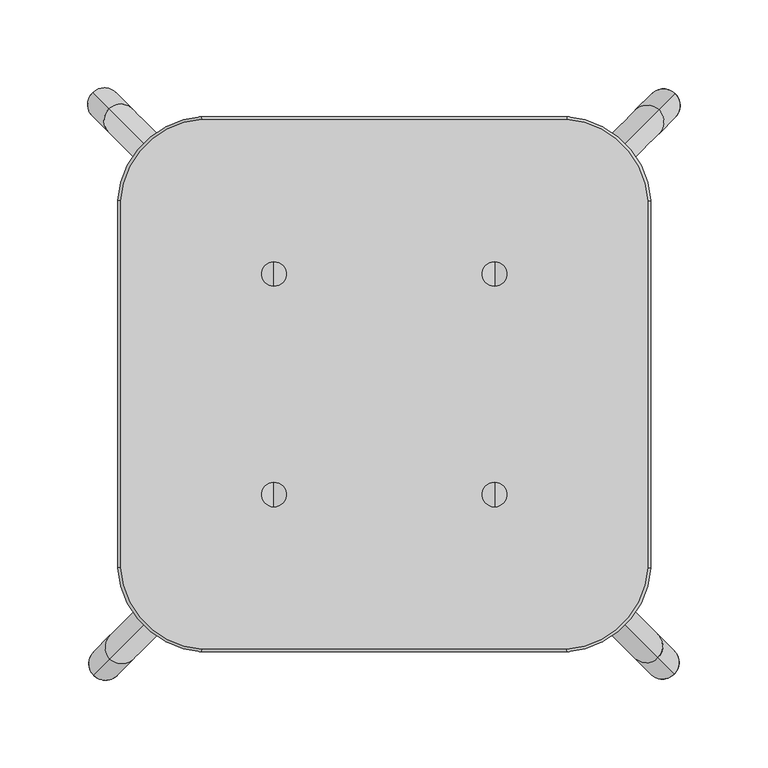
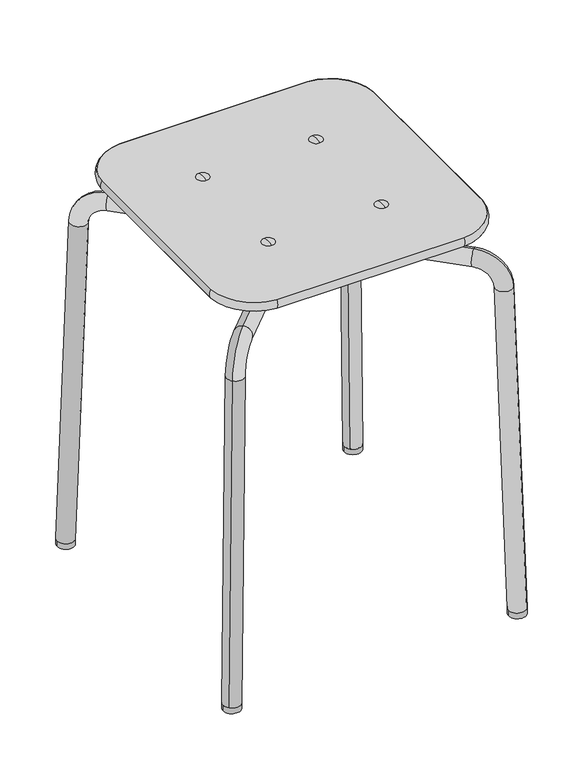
"""IFC4 building model written with IfcOpenShell, lengths in millimetres: furniture geometry, Grip NxT Stool 45 Stack : 45 Unupholstered."""

import ifcopenshell
import ifcopenshell.guid

model = None  # the IFC model being written
_history = None  # IfcOwnerHistory: only IFC2X3 demands one
_inside = {}  # id of a spatial element -> (the spatial element, [elements in it])
_under = {}  # id of a project, library or spatial element -> (it, [spatial elements below it])
_declared = {}  # id of a project -> (the project, [libraries it declares])
_typed = {}  # id of a type object -> (the type object, [elements of that type])
_made_of = {}  # id of a material, layer set ... -> (it, [elements and type objects made of it])


def new_model(schema):
    """Start an empty IFC model of exactly this schema.

    Asked for "IFC4X3", IfcOpenShell would pick the latest addendum, in which some entities
    have other attributes; the version numbers below select the first issue.
    IFC2X3 requires an IfcOwnerHistory on every rooted entity: one is made here for all.
    """
    global model, _history
    if schema == "IFC4X3":
        model = ifcopenshell.file(schema_version=(4, 3, 0, 0))
    else:
        model = ifcopenshell.file(schema=schema)
    _inside.clear()
    _under.clear()
    _declared.clear()
    _typed.clear()
    _made_of.clear()
    _history = None
    if model.schema == "IFC2X3":
        org = make("IfcOrganization", Name="unknown")
        user = make(
            "IfcPersonAndOrganization",
            ThePerson=make("IfcPerson", FamilyName="unknown"),
            TheOrganization=org,
        )
        app = make(
            "IfcApplication",
            ApplicationDeveloper=org,
            Version="unknown",
            ApplicationFullName="unknown",
            ApplicationIdentifier="unknown",
        )
        _history = make(
            "IfcOwnerHistory",
            OwningUser=user,
            OwningApplication=app,
            ChangeAction="ADDED",
            CreationDate=0,
        )
    return model


def make(cls, **values):
    """One entity of the class cls with the attributes given. An attribute that is None is left unset."""
    return model.create_entity(
        cls, **{name: value for name, value in values.items() if value is not None}
    )


def rooted(cls, **values):
    """An entity with a GlobalId (a new one), such as an element, a storey or a relation."""
    return make(cls, GlobalId=ifcopenshell.guid.new(), OwnerHistory=_history, **values)


def si_unit(unit_type, name, prefix=None):
    """IfcSIUnit, for example si_unit("LENGTHUNIT", "METRE", prefix="MILLI")."""
    return make("IfcSIUnit", UnitType=unit_type, Prefix=prefix, Name=name)


def assignment(units):
    """IfcUnitAssignment: the units of a project."""
    return None if units is None else make("IfcUnitAssignment", Units=units)


def point(xyz):
    """IfcCartesianPoint."""
    return None if xyz is None else make("IfcCartesianPoint", Coordinates=xyz)


def direction(xyz):
    """IfcDirection."""
    return None if xyz is None else make("IfcDirection", DirectionRatios=xyz)


def frame(location, z_axis=None, x_axis=None):
    """IfcAxis2Placement3D, a coordinate frame: its origin and axes. An axis left out is left unset."""
    return make(
        "IfcAxis2Placement3D",
        Location=point(location),
        Axis=direction(z_axis),
        RefDirection=direction(x_axis),
    )


def frame_2d(location, x_axis=None):
    """IfcAxis2Placement2D, a coordinate frame in the plane: its origin and x axis."""
    return make(
        "IfcAxis2Placement2D", Location=point(location), RefDirection=direction(x_axis)
    )


def origin():
    """The frame at (0, 0, 0) with its axes left unset."""
    return frame((0.0, 0.0, 0.0))


def origin_with_axes():
    """The frame at (0, 0, 0) with the z axis (0, 0, 1) and the x axis (1, 0, 0) written out."""
    return frame((0.0, 0.0, 0.0), z_axis=(0.0, 0.0, 1.0), x_axis=(1.0, 0.0, 0.0))


def place(relative_to, where):
    """IfcLocalPlacement: puts the frame where relative to a parent placement (None: the world)."""
    return make(
        "IfcLocalPlacement", PlacementRelTo=relative_to, RelativePlacement=where
    )


def context(
    kind, dimensions, precision=None, world=None, true_north=None, identifier=None
):
    """IfcGeometricRepresentationContext, for example the 3D "Model" context."""
    return make(
        "IfcGeometricRepresentationContext",
        ContextIdentifier=identifier,
        ContextType=kind,
        CoordinateSpaceDimension=dimensions,
        Precision=precision,
        WorldCoordinateSystem=world,
        TrueNorth=true_north,
    )


def project(units=None, contexts=None):
    """IfcProject with its units and contexts."""
    return rooted(
        "IfcProject",
        Name="project",
        RepresentationContexts=contexts,
        UnitsInContext=assignment(units),
    )


def spatial(cls, under=None, at=None, **own):
    """A site, building, storey or space (cls), placed at a placement, below another one or the project."""
    s = rooted(cls, ObjectPlacement=at, **own)
    if under is not None:
        _under.setdefault(under.id(), (under, []))[1].append(s)
    return s


def polyline(points):
    """IfcPolyline through the points."""
    return make("IfcPolyline", Points=[point(p) for p in points])


def circle_curve(where, radius):
    """IfcCircle in the frame where."""
    return make("IfcCircle", Position=where, Radius=radius)


def ellipse_curve(where, semi_axis1, semi_axis2):
    """IfcEllipse in the frame where."""
    return make(
        "IfcEllipse", Position=where, SemiAxis1=semi_axis1, SemiAxis2=semi_axis2
    )


def trimmed(basis, trim1, trim2, sense, master):
    """IfcTrimmedCurve: the piece of a basis curve between two trims."""
    return make(
        "IfcTrimmedCurve",
        BasisCurve=basis,
        Trim1=trim1,
        Trim2=trim2,
        SenseAgreement=sense,
        MasterRepresentation=master,
    )


def segment(curve, same_sense, transition):
    """IfcCompositeCurveSegment."""
    return make(
        "IfcCompositeCurveSegment",
        Transition=transition,
        SameSense=same_sense,
        ParentCurve=curve,
    )


def composite_curve(segments, self_intersect=None):
    """IfcCompositeCurve: segments joined end to end."""
    return make("IfcCompositeCurve", Segments=segments, SelfIntersect=self_intersect)


def outline(outer, holes=None, kind="AREA"):
    """IfcArbitraryClosedProfileDef: a profile drawn as a closed curve; with holes, ...WithVoids."""
    if holes is None:
        return make("IfcArbitraryClosedProfileDef", ProfileType=kind, OuterCurve=outer)
    return make(
        "IfcArbitraryProfileDefWithVoids",
        ProfileType=kind,
        OuterCurve=outer,
        InnerCurves=holes,
    )


def extrude(swept, where, along, depth):
    """IfcExtrudedAreaSolid: the profile swept, set in the frame where, extruded along a direction by depth."""
    return make(
        "IfcExtrudedAreaSolid",
        SweptArea=swept,
        Position=where,
        ExtrudedDirection=direction(along),
        Depth=depth,
    )


def shape(context_of_items, identifier, shape_type, items):
    """IfcShapeRepresentation: the items that make up one representation, for example the "Body"."""
    return make(
        "IfcShapeRepresentation",
        ContextOfItems=context_of_items,
        RepresentationIdentifier=identifier,
        RepresentationType=shape_type,
        Items=items,
    )


def source(mapping_origin, context_of_items, identifier, shape_type, items):
    """IfcRepresentationMap: a shape defined once, which mapped items show again and again."""
    return make(
        "IfcRepresentationMap",
        MappingOrigin=mapping_origin,
        MappedRepresentation=shape(context_of_items, identifier, shape_type, items),
    )


def transform(
    local_origin,
    x_axis=None,
    y_axis=None,
    z_axis=None,
    scale=None,
    scale2=None,
    scale3=None,
    uniform=True,
):
    """IfcCartesianTransformationOperator3D, or its non-uniform kind. x_axis, y_axis, z_axis: its Axis1, 2, 3."""
    if uniform:
        return make(
            "IfcCartesianTransformationOperator3D",
            Axis1=direction(x_axis),
            Axis2=direction(y_axis),
            LocalOrigin=point(local_origin),
            Scale=scale,
            Axis3=direction(z_axis),
        )
    return make(
        "IfcCartesianTransformationOperator3DnonUniform",
        Axis1=direction(x_axis),
        Axis2=direction(y_axis),
        LocalOrigin=point(local_origin),
        Scale=scale,
        Axis3=direction(z_axis),
        Scale2=scale2,
        Scale3=scale3,
    )


def mapped(mapping_source, mapping_target):
    """IfcMappedItem: shows the shape of a source again, moved by a transform."""
    return make(
        "IfcMappedItem", MappingSource=mapping_source, MappingTarget=mapping_target
    )


def made_of(thing, what):
    """Note that an element or type object is made of a material, layer set ...; save() writes the relation."""
    if what is not None:
        _made_of.setdefault(what.id(), (what, []))[1].append(thing)
    return thing


def element(
    cls,
    number,
    at=None,
    inside=None,
    cuts=None,
    type_object=None,
    material=None,
    context=None,
    identifier="Body",
    shape_type=None,
    held_by="IfcProductDefinitionShape",
    body=None,
    shapes=None,
    **own,
):
    """One element of the class cls, such as IfcWall. Its Tag is "e" and its number.

    at: its placement. inside: the storey or other place that contains it. cuts: it is an
    opening in that element (IfcRelVoidsElement). A single representation is given by context,
    identifier, shape_type and body (its items); several are given by shapes. held_by: the class
    of the entity that holds the representations. save() writes the other relations.
    """
    e = rooted(cls, Tag="e%d" % number, ObjectPlacement=at, **own)
    if body is not None:
        shapes = [shape(context, identifier, shape_type, body)]
    if shapes is not None:
        e.Representation = make(held_by, Representations=shapes)
    if inside is not None:
        _inside.setdefault(inside.id(), (inside, []))[1].append(e)
    if cuts is not None:
        rooted(
            "IfcRelVoidsElement", RelatingBuildingElement=cuts, RelatedOpeningElement=e
        )
    if type_object is not None:
        _typed.setdefault(type_object.id(), (type_object, []))[1].append(e)
    return made_of(e, material)


def aggregate(whole, parts):
    """IfcRelAggregates: a whole, such as a stair, and the parts it consists of."""
    return rooted("IfcRelAggregates", RelatingObject=whole, RelatedObjects=parts)


def save(model, path):
    """Write the relations noted so far, then the file.

    IfcRelAggregates (storeys below a building ...), IfcRelContainedInSpatialStructure (elements
    in a storey), IfcRelDefinesByType, IfcRelAssociatesMaterial and IfcRelDeclares: one each for
    every whole, place, type object, material and project.
    """
    for whole, parts in _under.values():
        aggregate(whole, parts)
    for where, things in _inside.values():
        rooted(
            "IfcRelContainedInSpatialStructure",
            RelatedElements=things,
            RelatingStructure=where,
        )
    for kind, things in _typed.values():
        rooted("IfcRelDefinesByType", RelatedObjects=things, RelatingType=kind)
    for what, things in _made_of.values():
        rooted("IfcRelAssociatesMaterial", RelatedObjects=things, RelatingMaterial=what)
    for by, libraries in _declared.values():
        rooted("IfcRelDeclares", RelatingContext=by, RelatedDefinitions=libraries)
    model.write(path)


def plane_surface(at):
    """IfcPlane: the flat surface through the origin of the frame at, square to its z axis."""
    return make("IfcPlane", Position=at)


def cylinder_surface(at, radius):
    """IfcCylindricalSurface: all points at the distance radius from the z axis of the frame at."""
    return make("IfcCylindricalSurface", Position=at, Radius=radius)


def revolved_surface(curve, axis_point, axis_direction):
    """IfcSurfaceOfRevolution: the curve turned about the line through axis_point along axis_direction."""
    return make(
        "IfcSurfaceOfRevolution",
        SweptCurve=make("IfcArbitraryOpenProfileDef", ProfileType="CURVE", Curve=curve),
        AxisPosition=make("IfcAxis1Placement", Location=point(axis_point), Axis=direction(axis_direction)),
    )


def advanced_brep(points, edges, surfaces, faces):
    """IfcAdvancedBrep: a solid bounded by faces that lie on surfaces and meet in shared edges.

    An edge is (start, end): straight between two places in points (the first is 0);
    or (start, end, curve); or (start, end, curve, False) where it runs against its curve.
    A face is (place in surfaces, loops), or (place, loops, False) where it looks against
    its surface's normal. A loop lists edges by number (the first is 1), with a minus sign
    where the edge is run from its end to its start. The first loop is the outer one.
    """
    corners = [point(p) for p in points]
    vertices = [make("IfcVertexPoint", VertexGeometry=c) for c in corners]
    made = []
    for start, end, *more in edges:
        made.append(
            make(
                "IfcEdgeCurve",
                EdgeStart=vertices[start],
                EdgeEnd=vertices[end],
                EdgeGeometry=more[0] if more else make("IfcPolyline", Points=[corners[start], corners[end]]),
                SameSense=more[1] if len(more) > 1 else True,
            )
        )
    hull = []
    for where, loops, *sense in faces:
        bounds = []
        for j, loop in enumerate(loops):
            ring = [make("IfcOrientedEdge", EdgeElement=made[abs(k) - 1], Orientation=k > 0) for k in loop]
            bounds.append(
                make(
                    "IfcFaceOuterBound" if j == 0 else "IfcFaceBound",
                    Bound=make("IfcEdgeLoop", EdgeList=ring),
                    Orientation=True,
                )
            )
        hull.append(make("IfcAdvancedFace", Bounds=bounds, FaceSurface=surfaces[where], SameSense=sense[0] if sense else True))
    return make("IfcAdvancedBrep", Outer=make("IfcClosedShell", CfsFaces=hull))


def furniture_68ec6503(model_context):
    return source(origin(), model_context, "Body", "SolidModel", [
        advanced_brep(
        [(165.2549262, -165.2549262, 6.7653221), (151.8280816, -151.8280816, 6.1022316), (155.9976183, -155.9976183, 381.66572), (142.5707737, -142.5707737, 381.0026295), (128.0839151, -128.0839151, 419.7871899), (128.0839151, -128.0839151, 400.7871899), (0.1314281, -0.1314281, 419.7871899), (0.1314281, -0.1314281, 400.7871899), (-129.1039076, 129.1039076, 419.7871899), (-129.1039076, 129.1039076, 400.7871899), (-157.0176108, 157.0176108, 381.66572), (-143.5907662, 143.5907662, 381.0026295), (-166.2737555, 166.2737555, 6.812426), (-152.846911, 152.846911, 6.1493355), (165.895769, 165.6329127, 6.7653221), (152.4689244, 152.2060681, 6.1022316), (156.6384611, 156.3756048, 381.66572), (143.2116165, 142.9487603, 381.0026295), (128.7247579, 128.4619016, 419.7871899), (128.7247579, 128.4619016, 400.7871899), (-128.4630647, -128.725921, 419.7871899), (-128.4630647, -128.725921, 400.7871899), (-156.376768, -156.6396242, 381.66572), (-142.9499234, -143.2127797, 381.0026295), (-165.6329127, -165.895769, 6.812426), (-152.2060681, -152.4689244, 6.1493355)],
        [
            (0, 1, circle_curve(frame((158.5415039, -158.5415039, 6.4337769), z_axis=(0.024677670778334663, -0.02467767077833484, -0.9993908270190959), x_axis=(-0.7066760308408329, 0.7066760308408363, -0.034899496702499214)), 9.5)),
            (1, 0, circle_curve(frame((158.5415039, -158.5415039, 6.4337769), z_axis=(0.024677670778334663, -0.02467767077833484, -0.9993908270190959), x_axis=(-0.7066760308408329, 0.7066760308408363, -0.034899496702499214)), 9.5)),
            (0, 2),
            (2, 3, circle_curve(frame((149.284196, -149.284196, 381.3341748), z_axis=(0.024677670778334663, -0.02467767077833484, -0.9993908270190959), x_axis=(-0.7066760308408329, 0.7066760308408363, -0.034899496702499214)), 9.5)),
            (3, 1),
            (3, 2, circle_curve(frame((149.284196, -149.284196, 381.3341748), z_axis=(0.024677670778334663, -0.02467767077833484, -0.9993908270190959), x_axis=(-0.7066760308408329, 0.7066760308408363, -0.034899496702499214)), 9.5)),
            (2, 4, circle_curve(frame((128.0839151, -128.0839151, 380.2871899), z_axis=(-0.7071067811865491, -0.7071067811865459, 0.0), x_axis=(0.7066760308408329, -0.7066760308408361, 0.03489949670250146)), 39.5)),
            (4, 5, circle_curve(frame((128.0839151, -128.0839151, 410.2871899), z_axis=(0.7071067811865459, -0.7071067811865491, 0.0), x_axis=(0.0, 0.0, -1.0)), 9.5)),
            (5, 3, circle_curve(frame((128.0839151, -128.0839151, 380.2871899), z_axis=(0.7071067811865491, 0.7071067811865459, 0.0), x_axis=(0.7066760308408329, -0.7066760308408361, 0.03489949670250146)), 20.5)),
            (5, 4, circle_curve(frame((128.0839151, -128.0839151, 410.2871899), z_axis=(0.7071067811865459, -0.7071067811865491, 0.0), x_axis=(0.0, 0.0, -1.0)), 9.5)),
            (4, 6),
            (6, 7, ellipse_curve(frame((0.1314281, -0.1314281, 410.2871899), z_axis=(1.0, 0.0, 0.0), x_axis=(0.0, -1.0, 0.0)), 13.4350288, 9.5)),
            (7, 5),
            (8, 9, circle_curve(frame((-129.1039076, 129.1039076, 410.2871899), z_axis=(0.7071067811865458, -0.7071067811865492, 0.0), x_axis=(0.0, 0.0, -1.0)), 9.5)),
            (9, 7),
            (7, 6, ellipse_curve(frame((0.1314281, -0.1314281, 410.2871899), z_axis=(0.0, 1.0, 0.0), x_axis=(1.0, 0.0, 0.0)), 13.4350288, 9.5)),
            (6, 8),
            (7, 6, ellipse_curve(frame((0.1314281, -0.1314281, 410.2871899), z_axis=(0.0, -1.0, 0.0), x_axis=(1.0, 0.0, 0.0)), 13.4350288, 9.5)),
            (9, 8, circle_curve(frame((-129.1039076, 129.1039076, 410.2871899), z_axis=(0.7071067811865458, -0.7071067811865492, 0.0), x_axis=(0.0, 0.0, -1.0)), 9.5)),
            (6, 7, ellipse_curve(frame((0.1314281, -0.1314281, 410.2871899), z_axis=(-1.0, 0.0, 0.0), x_axis=(0.0, -1.0, 0.0)), 13.4350288, 9.5)),
            (8, 10, circle_curve(frame((-129.1039076, 129.1039076, 380.2871899), z_axis=(-0.7071067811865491, -0.7071067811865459, 0.0), x_axis=(0.0, 0.0, 1.0)), 39.5)),
            (10, 11, circle_curve(frame((-150.3041885, 150.3041885, 381.3341748), z_axis=(0.024677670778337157, -0.02467767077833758, 0.9993908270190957), x_axis=(0.7066760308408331, -0.7066760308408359, -0.03489949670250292)), 9.5)),
            (11, 9, circle_curve(frame((-129.1039076, 129.1039076, 380.2871899), z_axis=(0.7071067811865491, 0.7071067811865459, 0.0), x_axis=(0.0, 0.0, 1.0)), 20.5)),
            (11, 10, circle_curve(frame((-150.3041885, 150.3041885, 381.3341748), z_axis=(0.02467767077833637, -0.024677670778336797, 0.9993908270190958), x_axis=(0.7066760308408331, -0.7066760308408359, -0.03489949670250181)), 9.5)),
            (12, 13, circle_curve(frame((-159.5603333, 159.5603333, 6.4808807), z_axis=(-0.024677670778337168, 0.02467767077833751, -0.9993908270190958), x_axis=(0.7066760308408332, -0.7066760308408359, -0.03489949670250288)), 9.5)),
            (13, 12, circle_curve(frame((-159.5603333, 159.5603333, 6.4808807), z_axis=(-0.024677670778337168, 0.02467767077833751, -0.9993908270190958), x_axis=(0.7066760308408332, -0.7066760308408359, -0.03489949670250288)), 9.5)),
            (10, 12),
            (13, 11),
            (14, 15, circle_curve(frame((159.1823467, 158.9194904, 6.4337769), z_axis=(0.024677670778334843, 0.024677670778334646, -0.9993908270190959), x_axis=(-0.706676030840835, -0.7066760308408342, -0.03489949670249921)), 9.5)),
            (15, 14, circle_curve(frame((159.1823467, 158.9194904, 6.4337769), z_axis=(0.024677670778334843, 0.024677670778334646, -0.9993908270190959), x_axis=(-0.706676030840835, -0.7066760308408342, -0.03489949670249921)), 9.5)),
            (14, 16),
            (16, 17, circle_curve(frame((149.9250388, 149.6621825, 381.3341748), z_axis=(0.024677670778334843, 0.024677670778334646, -0.9993908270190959), x_axis=(-0.706676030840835, -0.7066760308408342, -0.03489949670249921)), 9.5)),
            (17, 15),
            (17, 16, circle_curve(frame((149.9250388, 149.6621825, 381.3341748), z_axis=(0.024677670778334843, 0.024677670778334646, -0.9993908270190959), x_axis=(-0.706676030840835, -0.7066760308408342, -0.03489949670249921)), 9.5)),
            (16, 18, circle_curve(frame((128.7247579, 128.4619016, 380.2871899), z_axis=(0.707106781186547, -0.707106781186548, 0.0), x_axis=(0.706676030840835, 0.706676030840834, 0.03489949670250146)), 39.5)),
            (18, 19, circle_curve(frame((128.7247579, 128.4619016, 410.2871899), z_axis=(0.7071067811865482, 0.707106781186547, 0.0), x_axis=(0.0, 0.0, -1.0)), 9.5)),
            (19, 17, circle_curve(frame((128.7247579, 128.4619016, 380.2871899), z_axis=(-0.707106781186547, 0.707106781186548, 0.0), x_axis=(0.706676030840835, 0.706676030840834, 0.03489949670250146)), 20.5)),
            (19, 18, circle_curve(frame((128.7247579, 128.4619016, 410.2871899), z_axis=(0.7071067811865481, 0.7071067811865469, 0.0), x_axis=(0.0, 0.0, -1.0)), 9.5)),
            (18, 6),
            (7, 19),
            (20, 21, circle_curve(frame((-128.4630647, -128.725921, 410.2871899), z_axis=(0.7071067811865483, 0.7071067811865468, 0.0), x_axis=(0.0, 0.0, -1.0)), 9.5)),
            (21, 7),
            (6, 20),
            (21, 20, circle_curve(frame((-128.4630647, -128.725921, 410.2871899), z_axis=(0.7071067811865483, 0.7071067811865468, 0.0), x_axis=(0.0, 0.0, -1.0)), 9.5)),
            (20, 22, circle_curve(frame((-128.4630647, -128.725921, 380.2871899), z_axis=(0.707106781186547, -0.707106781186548, 0.0), x_axis=(0.0, 0.0, 1.0)), 39.5)),
            (22, 23, circle_curve(frame((-149.6633457, -149.9262019, 381.3341748), z_axis=(0.02467767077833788, 0.02467767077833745, 0.9993908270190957), x_axis=(0.7066760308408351, 0.7066760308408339, -0.03489949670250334)), 9.5)),
            (23, 21, circle_curve(frame((-128.4630647, -128.725921, 380.2871899), z_axis=(-0.707106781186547, 0.707106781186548, 0.0), x_axis=(0.0, 0.0, 1.0)), 20.5)),
            (23, 22, circle_curve(frame((-149.6633457, -149.9262019, 381.3341748), z_axis=(0.024677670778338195, 0.024677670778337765, 0.9993908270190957), x_axis=(0.7066760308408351, 0.7066760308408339, -0.034899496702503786)), 9.5)),
            (24, 25, circle_curve(frame((-158.9194904, -159.1823467, 6.4808807), z_axis=(-0.02467767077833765, -0.024677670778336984, -0.9993908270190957), x_axis=(0.7066760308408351, 0.7066760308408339, -0.03489949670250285)), 9.5)),
            (25, 24, circle_curve(frame((-158.9194904, -159.1823467, 6.4808807), z_axis=(-0.02467767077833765, -0.024677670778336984, -0.9993908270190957), x_axis=(0.7066760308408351, 0.7066760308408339, -0.03489949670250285)), 9.5)),
            (22, 24),
            (25, 23),
        ],
        [
            plane_surface(frame((158.5415039, -158.5415039, 6.4337769), z_axis=(0.024677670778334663, -0.02467767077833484, -0.9993908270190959), x_axis=(-0.707106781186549, -0.7071067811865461, 0.0))),
            cylinder_surface(frame((158.5415039, -158.5415039, 6.4337769), z_axis=(0.024677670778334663, -0.02467767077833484, -0.9993908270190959), x_axis=(-0.7066760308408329, 0.7066760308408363, -0.034899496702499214)), 9.5),
            revolved_surface(trimmed(ellipse_curve(frame((149.284196, -149.284196, 381.3341748), z_axis=(0.024677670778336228, -0.02467767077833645, -0.9993908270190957), x_axis=(-0.7066760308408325, 0.7066760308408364, -0.03489949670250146)), 9.5, 9.5), [point((155.9976183, -155.9976183, 381.66572))], [point((142.5707737, -142.5707737, 381.0026295))], True, "CARTESIAN"), (128.0839151, -128.0839151, 380.2871899), (-0.7071067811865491, -0.7071067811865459, 0.0)),
            revolved_surface(trimmed(ellipse_curve(frame((149.284196, -149.284196, 381.3341748), z_axis=(0.024677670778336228, -0.02467767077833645, -0.9993908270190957), x_axis=(-0.7066760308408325, 0.7066760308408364, -0.03489949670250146)), 9.5, 9.5), [point((142.5707737, -142.5707737, 381.0026295))], [point((155.9976183, -155.9976183, 381.66572))], True, "CARTESIAN"), (128.0839151, -128.0839151, 380.2871899), (-0.7071067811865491, -0.7071067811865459, 0.0)),
            cylinder_surface(frame((128.0839151, -128.0839151, 410.2871899), z_axis=(0.7071067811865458, -0.7071067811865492, 0.0), x_axis=(0.0, 0.0, -1.0)), 9.5),
            revolved_surface(trimmed(ellipse_curve(frame((-129.1039076, 129.1039076, 410.2871899), z_axis=(0.7071067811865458, -0.7071067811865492, 0.0), x_axis=(0.0, 0.0, -1.0)), 9.5, 9.5), [point((-129.1039076, 129.1039076, 419.7871899))], [point((-129.1039076, 129.1039076, 400.7871899))], True, "CARTESIAN"), (-129.1039076, 129.1039076, 380.2871899), (-0.7071067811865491, -0.7071067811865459, 0.0)),
            revolved_surface(trimmed(ellipse_curve(frame((-129.1039076, 129.1039076, 410.2871899), z_axis=(0.7071067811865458, -0.7071067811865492, 0.0), x_axis=(0.0, 0.0, -1.0)), 9.5, 9.5), [point((-129.1039076, 129.1039076, 400.7871899))], [point((-129.1039076, 129.1039076, 419.7871899))], True, "CARTESIAN"), (-129.1039076, 129.1039076, 380.2871899), (-0.7071067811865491, -0.7071067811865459, 0.0)),
            plane_surface(frame((-159.5603333, 159.5603333, 6.4808807), z_axis=(-0.024677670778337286, 0.0246776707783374, -0.9993908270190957), x_axis=(-0.7071067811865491, -0.7071067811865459, 0.0))),
            cylinder_surface(frame((-150.3041885, 150.3041885, 381.3341748), z_axis=(0.024677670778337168, -0.02467767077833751, 0.9993908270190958), x_axis=(0.7066760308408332, -0.7066760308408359, -0.03489949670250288)), 9.5),
            plane_surface(frame((159.1823467, 158.9194904, 6.4337769), z_axis=(0.024677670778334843, 0.024677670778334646, -0.9993908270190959), x_axis=(0.707106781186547, -0.7071067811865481, 0.0))),
            cylinder_surface(frame((159.1823467, 158.9194904, 6.4337769), z_axis=(0.024677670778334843, 0.024677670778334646, -0.9993908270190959), x_axis=(-0.706676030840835, -0.7066760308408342, -0.03489949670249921)), 9.5),
            revolved_surface(trimmed(ellipse_curve(frame((149.9250388, 149.6621825, 381.3341748), z_axis=(0.024677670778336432, 0.024677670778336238, -0.9993908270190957), x_axis=(-0.7066760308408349, -0.7066760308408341, -0.034899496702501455)), 9.5, 9.5), [point((156.6384611, 156.3756048, 381.66572))], [point((143.2116165, 142.9487603, 381.0026295))], True, "CARTESIAN"), (128.7247579, 128.4619016, 380.2871899), (0.707106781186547, -0.707106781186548, 0.0)),
            revolved_surface(trimmed(ellipse_curve(frame((149.9250388, 149.6621825, 381.3341748), z_axis=(0.024677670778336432, 0.024677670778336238, -0.9993908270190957), x_axis=(-0.7066760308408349, -0.7066760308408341, -0.034899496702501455)), 9.5, 9.5), [point((143.2116165, 142.9487603, 381.0026295))], [point((156.6384611, 156.3756048, 381.66572))], True, "CARTESIAN"), (128.7247579, 128.4619016, 380.2871899), (0.707106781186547, -0.707106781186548, 0.0)),
            cylinder_surface(frame((128.7247579, 128.4619016, 410.2871899), z_axis=(0.7071067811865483, 0.7071067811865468, 0.0), x_axis=(0.0, 0.0, -1.0)), 9.5),
            revolved_surface(trimmed(ellipse_curve(frame((-128.4630647, -128.725921, 410.2871899), z_axis=(0.7071067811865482, 0.7071067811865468, 0.0), x_axis=(0.0, 0.0, -1.0)), 9.5, 9.5), [point((-128.4630647, -128.725921, 419.7871899))], [point((-128.4630647, -128.725921, 400.7871899))], True, "CARTESIAN"), (-128.4630647, -128.725921, 380.2871899), (0.707106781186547, -0.707106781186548, 0.0)),
            revolved_surface(trimmed(ellipse_curve(frame((-128.4630647, -128.725921, 410.2871899), z_axis=(0.7071067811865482, 0.7071067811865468, 0.0), x_axis=(0.0, 0.0, -1.0)), 9.5, 9.5), [point((-128.4630647, -128.725921, 400.7871899))], [point((-128.4630647, -128.725921, 419.7871899))], True, "CARTESIAN"), (-128.4630647, -128.725921, 380.2871899), (0.707106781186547, -0.707106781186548, 0.0)),
            plane_surface(frame((-158.9194904, -159.1823467, 6.4808807), z_axis=(-0.024677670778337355, -0.024677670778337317, -0.9993908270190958), x_axis=(0.707106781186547, -0.7071067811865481, 0.0))),
            cylinder_surface(frame((-149.6633457, -149.9262019, 381.3341748), z_axis=(0.024677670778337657, 0.02467767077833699, 0.9993908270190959), x_axis=(0.7066760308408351, 0.7066760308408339, -0.03489949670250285)), 9.5),
        ],
        [
            (0, [[1, 2]]),
            (1, [[-1, 3, 4, 5]]),
            (1, [[-2, -5, 6, -3]]),
            (2, [[-4, 7, 8, 9]]),
            (3, [[-6, -9, 10, -7]]),
            (4, [[-8, 11, 12, 13]]),
            (4, [[14, 15, 16, 17]]),
            (4, [[-10, -13, 18, -11]]),
            (4, [[19, -17, 20, -15]]),
            (5, [[-14, 21, 22, 23]]),
            (6, [[-19, -23, 24, -21]]),
            (7, [[25, 26]]),
            (8, [[-22, 27, -26, 28]]),
            (8, [[-24, -28, -25, -27]]),
            (9, [[29, 30]]),
            (10, [[-29, 31, 32, 33]]),
            (10, [[-30, -33, 34, -31]]),
            (11, [[-32, 35, 36, 37]]),
            (12, [[-34, -37, 38, -35]]),
            (13, [[-36, 39, -18, 40]]),
            (13, [[41, 42, -12, 43]]),
            (13, [[-38, -40, -20, -39]]),
            (13, [[44, -43, -16, -42]]),
            (14, [[-41, 45, 46, 47]]),
            (15, [[-44, -47, 48, -45]]),
            (16, [[49, 50]]),
            (17, [[-46, 51, -50, 52]]),
            (17, [[-48, -52, -49, -51]]),
        ],
    ),
        extrude(outline(composite_curve([segment(trimmed(circle_curve(frame_2d((-62.8430475, -62.9984816)), 9.0), [point((-71.8430475, -62.9984816))], [point((-53.8430475, -62.9984816))], False, "CARTESIAN"), True, "CONTINUOUS"), segment(trimmed(circle_curve(frame_2d((-62.8430475, -62.9984816)), 9.0), [point((-53.8430475, -62.9984816))], [point((-71.8430475, -62.9984816))], False, "CARTESIAN"), True, "CONTINUOUS")], self_intersect=False)), frame((0.0, 0.0, 388.5318909), z_axis=(0.0, 0.0, 1.0), x_axis=(1.0, 0.0, 0.0)), (0.0, 0.0, 1.0), 56.7956238),
        extrude(outline(composite_curve([segment(trimmed(circle_curve(frame_2d((-62.9013824, 62.8818117)), 9.0), [point((-71.9013824, 62.8818117))], [point((-53.9013824, 62.8818117))], False, "CARTESIAN"), True, "CONTINUOUS"), segment(trimmed(circle_curve(frame_2d((-62.9013824, 62.8818117)), 9.0), [point((-53.9013824, 62.8818117))], [point((-71.9013824, 62.8818117))], False, "CARTESIAN"), True, "CONTINUOUS")], self_intersect=False)), frame((0.0, 0.0, 388.5318909), z_axis=(0.0, 0.0, 1.0), x_axis=(1.0, 0.0, 0.0)), (0.0, 0.0, 1.0), 56.7956238),
        extrude(outline(composite_curve([segment(trimmed(circle_curve(frame_2d((63.0190462, 62.6464842)), 9.0), [point((72.0190462, 62.6464842))], [point((54.0190462, 62.6464842))], False, "CARTESIAN"), True, "CONTINUOUS"), segment(trimmed(circle_curve(frame_2d((63.0190462, 62.6464842)), 9.0), [point((54.0190462, 62.6464842))], [point((72.0190462, 62.6464842))], False, "CARTESIAN"), True, "CONTINUOUS")], self_intersect=False)), frame((0.0, 0.0, 388.5318909), z_axis=(0.0, 0.0, 1.0), x_axis=(1.0, 0.0, 0.0)), (0.0, 0.0, 1.0), 56.7956238),
        extrude(outline(composite_curve([segment(trimmed(circle_curve(frame_2d((62.8430475, -62.9984816)), 9.0), [point((71.8430475, -62.9984816))], [point((53.8430475, -62.9984816))], False, "CARTESIAN"), True, "CONTINUOUS"), segment(trimmed(circle_curve(frame_2d((62.8430475, -62.9984816)), 9.0), [point((53.8430475, -62.9984816))], [point((71.8430475, -62.9984816))], False, "CARTESIAN"), True, "CONTINUOUS")], self_intersect=False)), frame((0.0, 0.0, 388.5318909), z_axis=(0.0, 0.0, 1.0), x_axis=(1.0, 0.0, 0.0)), (0.0, 0.0, 1.0), 56.7956238),
        extrude(outline(composite_curve([segment(trimmed(circle_curve(frame_2d((-158.9072278, -159.1772871)), 9.5), [point((-168.4072278, -159.1772871))], [point((-149.4072278, -159.1772871))], False, "CARTESIAN"), True, "CONTINUOUS"), segment(trimmed(circle_curve(frame_2d((-158.9072278, -159.1772871)), 9.5), [point((-149.4072278, -159.1772871))], [point((-168.4072278, -159.1772871))], False, "CARTESIAN"), True, "CONTINUOUS")], self_intersect=False)), origin_with_axes(), (0.0, 0.0, 1.0), 7.0),
        extrude(outline(composite_curve([segment(trimmed(circle_curve(frame_2d((-159.4918114, 159.500871)), 9.5), [point((-168.9918114, 159.500871))], [point((-149.9918114, 159.500871))], False, "CARTESIAN"), True, "CONTINUOUS"), segment(trimmed(circle_curve(frame_2d((-159.4918114, 159.500871)), 9.5), [point((-149.9918114, 159.500871))], [point((-168.9918114, 159.500871))], False, "CARTESIAN"), True, "CONTINUOUS")], self_intersect=False)), origin_with_axes(), (0.0, 0.0, 1.0), 7.0),
        extrude(outline(composite_curve([segment(trimmed(circle_curve(frame_2d((159.1861771, 158.971276)), 9.5325021), [point((149.653675, 158.971276))], [point((168.7186793, 158.971276))], False, "CARTESIAN"), True, "CONTINUOUS"), segment(trimmed(circle_curve(frame_2d((159.1861771, 158.971276)), 9.5325021), [point((168.7186793, 158.971276))], [point((149.653675, 158.971276))], False, "CARTESIAN"), True, "CONTINUOUS")], self_intersect=False)), origin_with_axes(), (0.0, 0.0, 1.0), 7.0),
        extrude(outline(composite_curve([segment(trimmed(circle_curve(frame_2d((158.5471745, -158.5595901)), 9.5), [point((149.0471745, -158.5595901))], [point((168.0471745, -158.5595901))], False, "CARTESIAN"), True, "CONTINUOUS"), segment(trimmed(circle_curve(frame_2d((158.5471745, -158.5595901)), 9.5), [point((168.0471745, -158.5595901))], [point((149.0471745, -158.5595901))], False, "CARTESIAN"), True, "CONTINUOUS")], self_intersect=False)), origin_with_axes(), (0.0, 0.0, 1.0), 7.0),
        advanced_brep(
        [(62.864624, 55.9496384, 455.3895874), (62.864624, 69.8431778, 455.3895874), (62.864624, 62.8964081, 455.3895874), (62.864624, 62.8964081, 456.5699158)],
        [
            (0, 1, circle_curve(frame((62.864624, 62.8964081, 455.3895874), z_axis=(0.0, 0.0, -1.0), x_axis=(0.0, 1.0, 0.0)), 6.9467697)),
            (1, 2),
            (2, 0),
            (1, 0, circle_curve(frame((62.864624, 62.8964081, 455.3895874), z_axis=(0.0, 0.0, -1.0), x_axis=(0.0, 1.0, 0.0)), 6.9467697)),
            (3, 1, circle_curve(frame((62.864624, 63.1234591, 436.8735995), z_axis=(-1.0, 0.0, 0.0), x_axis=(0.0, 1.0, 0.0)), 19.6976249)),
            (0, 3, circle_curve(frame((62.864624, 62.669357, 436.8735995), z_axis=(-1.0, 0.0, 0.0), x_axis=(0.0, -1.0, 0.0)), 19.6976249)),
        ],
        [
            plane_surface(frame((62.864624, 62.8964081, 455.3895874), z_axis=(0.0, 0.0, -1.0), x_axis=(0.0, 1.0, 0.0))),
            revolved_surface(trimmed(ellipse_curve(frame((62.864624, 63.1234591, 436.8735995), z_axis=(1.0, 0.0, 0.0), x_axis=(0.0, 1.0, 0.0)), 19.6976249, 19.6976249), [point((62.864624, 69.8431778, 455.3895874))], [point((62.864624, 62.8964081, 456.5699158))], True, "CARTESIAN"), (62.864624, 62.8964081, 456.2266692), (0.0, 0.0, 1.0)),
        ],
        [
            (0, [[1, 2, 3]]),
            (0, [[4, -3, -2]]),
            (1, [[5, -1, 6]]),
            (1, [[-6, -4, -5]]),
        ],
    ),
        advanced_brep(
        [(62.864624, -62.8964081, 455.3895874), (62.864624, -69.8431778, 455.3895874), (62.864624, -55.9496384, 455.3895874), (62.864624, -62.8964081, 456.5699158)],
        [
            (0, 1),
            (1, 2, circle_curve(frame((62.864624, -62.8964081, 455.3895874), z_axis=(0.0, 0.0, -1.0), x_axis=(0.0, -1.0, 0.0)), 6.9467697)),
            (2, 0),
            (2, 1, circle_curve(frame((62.864624, -62.8964081, 455.3895874), z_axis=(0.0, 0.0, -1.0), x_axis=(0.0, -1.0, 0.0)), 6.9467697)),
            (1, 3, circle_curve(frame((62.864624, -63.1234591, 436.8735995), z_axis=(-1.0, 0.0, 0.0), x_axis=(0.0, -1.0, 0.0)), 19.6976249)),
            (3, 2, circle_curve(frame((62.864624, -62.669357, 436.8735995), z_axis=(-1.0, 0.0, 0.0), x_axis=(0.0, 1.0, 0.0)), 19.6976249)),
        ],
        [
            plane_surface(frame((62.864624, -62.8964081, 455.3895874), z_axis=(0.0, 0.0, -1.0), x_axis=(0.0, -1.0, 0.0))),
            revolved_surface(trimmed(ellipse_curve(frame((62.864624, -63.1234591, 436.8735995), z_axis=(1.0, 0.0, 0.0), x_axis=(0.0, -1.0, 0.0)), 19.6976249, 19.6976249), [point((62.864624, -62.8964081, 456.5699158))], [point((62.864624, -69.8431778, 455.3895874))], True, "CARTESIAN"), (62.864624, -62.8964081, 456.2266692), (0.0, 0.0, -1.0)),
        ],
        [
            (0, [[1, 2, 3]]),
            (0, [[-3, 4, -1]]),
            (1, [[-2, 5, 6]]),
            (1, [[-4, -6, -5]]),
        ],
    ),
        advanced_brep(
        [(-62.864624, 62.8964081, 455.3895874), (-62.864624, 69.8431778, 455.3895874), (-62.864624, 55.9496384, 455.3895874), (-62.864624, 62.8964081, 456.5699158)],
        [
            (0, 1),
            (1, 2, circle_curve(frame((-62.864624, 62.8964081, 455.3895874), z_axis=(0.0, 0.0, -1.0), x_axis=(0.0, 1.0, 0.0)), 6.9467697)),
            (2, 0),
            (2, 1, circle_curve(frame((-62.864624, 62.8964081, 455.3895874), z_axis=(0.0, 0.0, -1.0), x_axis=(0.0, 1.0, 0.0)), 6.9467697)),
            (1, 3, circle_curve(frame((-62.864624, 63.1234591, 436.8735995), z_axis=(1.0, 0.0, 0.0), x_axis=(0.0, 1.0, 0.0)), 19.6976249)),
            (3, 2, circle_curve(frame((-62.864624, 62.669357, 436.8735995), z_axis=(1.0, 0.0, 0.0), x_axis=(0.0, -1.0, 0.0)), 19.6976249)),
        ],
        [
            plane_surface(frame((-62.864624, 62.8964081, 455.3895874), z_axis=(0.0, 0.0, -1.0), x_axis=(0.0, 1.0, 0.0))),
            revolved_surface(trimmed(ellipse_curve(frame((-62.864624, 63.1234591, 436.8735995), z_axis=(-1.0, 0.0, 0.0), x_axis=(0.0, 1.0, 0.0)), 19.6976249, 19.6976249), [point((-62.864624, 62.8964081, 456.5699158))], [point((-62.864624, 69.8431778, 455.3895874))], True, "CARTESIAN"), (-62.864624, 62.8964081, 456.2266692), (0.0, 0.0, -1.0)),
        ],
        [
            (0, [[1, 2, 3]]),
            (0, [[-3, 4, -1]]),
            (1, [[-2, 5, 6]]),
            (1, [[-4, -6, -5]]),
        ],
    ),
        advanced_brep(
        [(-62.864624, -55.9496384, 455.3895874), (-62.864624, -69.8431778, 455.3895874), (-62.864624, -62.8964081, 455.3895874), (-62.864624, -62.8964081, 456.5699158)],
        [
            (0, 1, circle_curve(frame((-62.864624, -62.8964081, 455.3895874), z_axis=(0.0, 0.0, -1.0), x_axis=(0.0, -1.0, 0.0)), 6.9467697)),
            (1, 2),
            (2, 0),
            (1, 0, circle_curve(frame((-62.864624, -62.8964081, 455.3895874), z_axis=(0.0, 0.0, -1.0), x_axis=(0.0, -1.0, 0.0)), 6.9467697)),
            (3, 1, circle_curve(frame((-62.864624, -63.1234591, 436.8735995), z_axis=(1.0, 0.0, 0.0), x_axis=(0.0, -1.0, 0.0)), 19.6976249)),
            (0, 3, circle_curve(frame((-62.864624, -62.669357, 436.8735995), z_axis=(1.0, 0.0, 0.0), x_axis=(0.0, 1.0, 0.0)), 19.6976249)),
        ],
        [
            plane_surface(frame((-62.864624, -62.8964081, 455.3895874), z_axis=(0.0, 0.0, -1.0), x_axis=(0.0, -1.0, 0.0))),
            revolved_surface(trimmed(ellipse_curve(frame((-62.864624, -63.1234591, 436.8735995), z_axis=(-1.0, 0.0, 0.0), x_axis=(0.0, -1.0, 0.0)), 19.6976249, 19.6976249), [point((-62.864624, -69.8431778, 455.3895874))], [point((-62.864624, -62.8964081, 456.5699158))], True, "CARTESIAN"), (-62.864624, -62.8964081, 456.2266692), (0.0, 0.0, 1.0)),
        ],
        [
            (0, [[1, 2, 3]]),
            (0, [[4, -3, -2]]),
            (1, [[5, -1, 6]]),
            (1, [[-6, -4, -5]]),
        ],
    ),
        advanced_brep(
        [(-150.5346627, -104.6444052, 455.4041136), (-104.127396, -151.0356405, 455.4041136), (-104.127396, -151.0356405, 445.4041138), (-150.5346627, -104.6444052, 445.4041138), (-150.5346627, 104.6444052, 455.4041136), (-150.5346627, 104.6444052, 445.4041138), (-104.127396, 151.0356405, 455.4041136), (-104.127396, 151.0356405, 445.4041138), (104.127396, 151.0356405, 455.4041136), (104.127396, 151.0356405, 445.4041138), (150.5346627, 104.6444052, 455.4041136), (150.5346627, 104.6444052, 445.4041138), (150.5346627, -104.6444052, 455.4041136), (150.5346627, -104.6444052, 445.4041138), (104.127396, -151.0356405, 455.4041136), (104.127396, -151.0356405, 445.4041138)],
        [
            (0, 1, circle_curve(frame((-100.6564828, -101.1562584, 455.4041136), z_axis=(0.0, 0.0, 1.0), x_axis=(-0.06941826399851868, -0.9975876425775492, 0.0)), 50.0)),
            (1, 2),
            (2, 3, circle_curve(frame((-100.6564828, -101.1562584, 445.4041138), z_axis=(0.0, 0.0, -1.0), x_axis=(-0.06941826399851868, -0.9975876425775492, 0.0)), 50.0)),
            (3, 0),
            (4, 0, circle_curve(frame((1345.8107347, 0.0, 455.4041136), z_axis=(0.0, 0.0, 1.0), x_axis=(-0.9975635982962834, -0.06976293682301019, 0.0)), 1500.0)),
            (3, 5, circle_curve(frame((1345.8107347, 0.0, 445.4041138), z_axis=(0.0, 0.0, -1.0), x_axis=(-0.9975635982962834, -0.06976293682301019, 0.0)), 1500.0)),
            (5, 4),
            (6, 4, circle_curve(frame((-100.6564828, 101.1562584, 455.4041136), z_axis=(0.0, 0.0, 1.0), x_axis=(-0.9975635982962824, 0.0697629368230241, 0.0)), 50.0)),
            (5, 7, circle_curve(frame((-100.6564828, 101.1562584, 445.4041138), z_axis=(0.0, 0.0, -1.0), x_axis=(-0.9975635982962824, 0.0697629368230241, 0.0)), 50.0)),
            (7, 6),
            (8, 6, circle_curve(frame((0.0, -1345.3458233, 455.4041136), z_axis=(0.0, 0.0, 1.0), x_axis=(-0.06941826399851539, 0.9975876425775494, 0.0)), 1500.0)),
            (7, 9, circle_curve(frame((0.0, -1345.3458233, 445.4041138), z_axis=(0.0, 0.0, -1.0), x_axis=(-0.06941826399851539, 0.9975876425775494, 0.0)), 1500.0)),
            (9, 8),
            (10, 8, circle_curve(frame((100.6564828, 101.1562584, 455.4041136), z_axis=(0.0, 0.0, 1.0), x_axis=(0.06941826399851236, 0.9975876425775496, 0.0)), 50.0)),
            (9, 11, circle_curve(frame((100.6564828, 101.1562584, 445.4041138), z_axis=(0.0, 0.0, -1.0), x_axis=(0.06941826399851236, 0.9975876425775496, 0.0)), 50.0)),
            (11, 10),
            (12, 10, circle_curve(frame((-1345.8107347, 0.0, 455.4041136), z_axis=(0.0, 0.0, 1.0), x_axis=(0.9975635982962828, 0.06976293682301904, 0.0)), 1500.0)),
            (11, 13, circle_curve(frame((-1345.8107347, 0.0, 445.4041138), z_axis=(0.0, 0.0, -1.0), x_axis=(0.9975635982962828, 0.06976293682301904, 0.0)), 1500.0)),
            (13, 12),
            (14, 12, circle_curve(frame((100.6564828, -101.1562584, 455.4041136), z_axis=(0.0, 0.0, 1.0), x_axis=(0.9975635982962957, -0.0697629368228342, 0.0)), 50.0)),
            (13, 15, circle_curve(frame((100.6564828, -101.1562584, 445.4041138), z_axis=(0.0, 0.0, -1.0), x_axis=(0.9975635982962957, -0.0697629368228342, 0.0)), 50.0)),
            (15, 14),
            (1, 14, circle_curve(frame((0.0, 1345.3458233, 455.4041136), z_axis=(0.0, 0.0, 1.0), x_axis=(0.0694182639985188, -0.9975876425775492, 0.0)), 1500.0)),
            (15, 2, circle_curve(frame((0.0, 1345.3458233, 445.4041138), z_axis=(0.0, 0.0, -1.0), x_axis=(0.0694182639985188, -0.9975876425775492, 0.0)), 1500.0)),
            (2, 1, circle_curve(frame((-103.6079173, -143.5703781, 450.4041137), z_axis=(-0.9975876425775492, 0.06941826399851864, 0.0), x_axis=(-0.06941826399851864, -0.9975876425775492, 0.0)), 9.0)),
            (0, 3, circle_curve(frame((-143.0695802, -104.1223472, 450.4041137), z_axis=(0.06976293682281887, -0.9975635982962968, 0.0), x_axis=(-0.9975635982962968, -0.06976293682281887, 0.0)), 9.0)),
            (4, 5, circle_curve(frame((-143.0695802, 104.1223472, 450.4041137), z_axis=(-0.06976293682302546, -0.9975635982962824, 0.0), x_axis=(-0.9975635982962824, 0.06976293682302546, 0.0)), 9.0)),
            (6, 7, circle_curve(frame((-103.6079173, 143.5703781, 450.4041137), z_axis=(-0.9975876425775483, -0.06941826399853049, 0.0), x_axis=(-0.06941826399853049, 0.9975876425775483, 0.0)), 9.0)),
            (8, 9, circle_curve(frame((103.6079173, 143.5703781, 450.4041137), z_axis=(-0.9975876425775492, 0.06941826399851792, 0.0), x_axis=(0.06941826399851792, 0.9975876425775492, 0.0)), 9.0)),
            (10, 11, circle_curve(frame((143.0695802, 104.1223472, 450.4041137), z_axis=(-0.06976293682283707, 0.9975635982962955, 0.0), x_axis=(0.9975635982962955, 0.06976293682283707, 0.0)), 9.0)),
            (12, 13, circle_curve(frame((143.0695802, -104.1223472, 450.4041137), z_axis=(0.06976293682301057, 0.9975635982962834, 0.0), x_axis=(0.9975635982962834, -0.06976293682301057, 0.0)), 9.0)),
            (14, 15, circle_curve(frame((103.6079173, -143.5703781, 450.4041137), z_axis=(0.997587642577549, 0.06941826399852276, 0.0), x_axis=(0.06941826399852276, -0.997587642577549, 0.0)), 9.0)),
        ],
        [
            revolved_surface(polyline([(-104.12739599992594, -151.03564052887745, 445.4041138), (-104.12739599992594, -151.03564052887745, 455.4041136)]), (-100.6564828, -101.1562584, 455.4041136), (0.0, 0.0, -1.0)),
            revolved_surface(polyline([(-150.53466274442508, -104.64440523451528, 445.4041138), (-150.53466274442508, -104.64440523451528, 455.4041136)]), (1345.8107347, 0.0, 455.4041136), (0.0, 0.0, -1.0)),
            revolved_surface(polyline([(-150.53466271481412, 104.6444052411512, 445.4041138), (-150.53466271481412, 104.6444052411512, 455.4041136)]), (-100.6564828, 101.1562584, 455.4041136), (0.0, 0.0, -1.0)),
            revolved_surface(polyline([(-104.12739599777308, 151.03564056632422, 445.4041138), (-104.12739599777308, 151.03564056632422, 455.4041136)]), (0.0, -1345.3458233, 455.4041136), (0.0, 0.0, -1.0)),
            revolved_surface(polyline([(104.12739599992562, 151.03564052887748, 445.4041138), (104.12739599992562, 151.03564052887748, 455.4041136)]), (100.6564828, 101.1562584, 455.4041136), (0.0, 0.0, -1.0)),
            revolved_surface(polyline([(150.53466274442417, 104.64440523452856, 445.4041138), (150.53466274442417, 104.64440523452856, 455.4041136)]), (-1345.8107347, 0.0, 455.4041136), (0.0, 0.0, -1.0)),
            revolved_surface(polyline([(150.5346627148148, -104.64440524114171, 445.4041138), (150.5346627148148, -104.64440524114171, 455.4041136)]), (100.6564828, -101.1562584, 455.4041136), (0.0, 0.0, -1.0)),
            revolved_surface(polyline([(104.12739599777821, -151.03564056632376, 445.4041138), (104.12739599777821, -151.03564056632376, 455.4041136)]), (0.0, 1345.3458233, 455.4041136), (0.0, 0.0, -1.0)),
            revolved_surface(trimmed(ellipse_curve(frame((-103.6079173, -143.5703781, 450.4041137), z_axis=(0.9975876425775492, -0.06941826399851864, 0.0), x_axis=(-0.06941826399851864, -0.9975876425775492, 0.0)), 9.0, 9.0), [point((-104.127396, -151.0356405, 455.4041136))], [point((-104.127396, -151.0356405, 445.4041138))], True, "CARTESIAN"), (-100.6564828, -101.1562584, 455.4041136), (0.0, 0.0, -1.0)),
            revolved_surface(trimmed(ellipse_curve(frame((-143.0695802, -104.1223472, 450.4041137), z_axis=(0.06976293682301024, -0.9975635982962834, 0.0), x_axis=(-0.9975635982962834, -0.06976293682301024, 0.0)), 9.0, 9.0), [point((-150.5346627, -104.6444052, 455.4041136))], [point((-150.5346627, -104.6444052, 445.4041138))], True, "CARTESIAN"), (1345.8107347, 0.0, 455.4041136), (0.0, 0.0, -1.0)),
            revolved_surface(trimmed(ellipse_curve(frame((-143.0695802, 104.1223472, 450.4041137), z_axis=(-0.06976293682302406, -0.9975635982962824, 0.0), x_axis=(-0.9975635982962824, 0.06976293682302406, 0.0)), 9.0, 9.0), [point((-150.5346627, 104.6444052, 455.4041136))], [point((-150.5346627, 104.6444052, 445.4041138))], True, "CARTESIAN"), (-100.6564828, 101.1562584, 455.4041136), (0.0, 0.0, -1.0)),
            revolved_surface(trimmed(ellipse_curve(frame((-103.6079173, 143.5703781, 450.4041137), z_axis=(-0.9975876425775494, -0.06941826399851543, 0.0), x_axis=(-0.06941826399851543, 0.9975876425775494, 0.0)), 9.0, 9.0), [point((-104.127396, 151.0356405, 455.4041136))], [point((-104.127396, 151.0356405, 445.4041138))], True, "CARTESIAN"), (0.0, -1345.3458233, 455.4041136), (0.0, 0.0, -1.0)),
            revolved_surface(trimmed(ellipse_curve(frame((103.6079173, 143.5703781, 450.4041137), z_axis=(-0.9975876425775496, 0.06941826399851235, 0.0), x_axis=(0.06941826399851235, 0.9975876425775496, 0.0)), 9.0, 9.0), [point((104.127396, 151.0356405, 455.4041136))], [point((104.127396, 151.0356405, 445.4041138))], True, "CARTESIAN"), (100.6564828, 101.1562584, 455.4041136), (0.0, 0.0, -1.0)),
            revolved_surface(trimmed(ellipse_curve(frame((143.0695802, 104.1223472, 450.4041137), z_axis=(-0.06976293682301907, 0.9975635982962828, 0.0), x_axis=(0.9975635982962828, 0.06976293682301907, 0.0)), 9.0, 9.0), [point((150.5346627, 104.6444052, 455.4041136))], [point((150.5346627, 104.6444052, 445.4041138))], True, "CARTESIAN"), (-1345.8107347, 0.0, 455.4041136), (0.0, 0.0, -1.0)),
            revolved_surface(trimmed(ellipse_curve(frame((143.0695802, -104.1223472, 450.4041137), z_axis=(0.06976293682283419, 0.9975635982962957, 0.0), x_axis=(0.9975635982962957, -0.06976293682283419, 0.0)), 9.0, 9.0), [point((150.5346627, -104.6444052, 455.4041136))], [point((150.5346627, -104.6444052, 445.4041138))], True, "CARTESIAN"), (100.6564828, -101.1562584, 455.4041136), (0.0, 0.0, -1.0)),
            revolved_surface(trimmed(ellipse_curve(frame((103.6079173, -143.5703781, 450.4041137), z_axis=(0.9975876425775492, 0.0694182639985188, 0.0), x_axis=(0.0694182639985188, -0.9975876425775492, 0.0)), 9.0, 9.0), [point((104.127396, -151.0356405, 455.4041136))], [point((104.127396, -151.0356405, 445.4041138))], True, "CARTESIAN"), (0.0, 1345.3458233, 455.4041136), (0.0, 0.0, -1.0)),
        ],
        [
            (0, [[1, 2, 3, 4]]),
            (1, [[5, -4, 6, 7]]),
            (2, [[8, -7, 9, 10]]),
            (3, [[11, -10, 12, 13]]),
            (4, [[14, -13, 15, 16]]),
            (5, [[17, -16, 18, 19]]),
            (6, [[20, -19, 21, 22]]),
            (7, [[23, -22, 24, -2]]),
            (8, [[-3, 25, -1, 26]]),
            (9, [[-6, -26, -5, 27]]),
            (10, [[-9, -27, -8, 28]]),
            (11, [[-12, -28, -11, 29]]),
            (12, [[-15, -29, -14, 30]]),
            (13, [[-18, -30, -17, 31]]),
            (14, [[-21, -31, -20, 32]]),
            (15, [[-24, -32, -23, -25]]),
        ],
    ),
        extrude(outline(composite_curve([segment(trimmed(circle_curve(frame_2d((100.6564828, 101.1562584)), 50.0), [point((104.127396, 151.0356405))], [point((150.5346627, 104.6444052))], False, "CARTESIAN"), True, "CONTINUOUS"), segment(trimmed(circle_curve(frame_2d((-1345.8107347, 0.0)), 1500.0), [point((150.5346627, 104.6444052))], [point((150.5346627, -104.6444052))], False, "CARTESIAN"), True, "CONTINUOUS"), segment(trimmed(circle_curve(frame_2d((100.6564828, -101.1562584)), 50.0), [point((150.5346627, -104.6444052))], [point((104.127396, -151.0356405))], False, "CARTESIAN"), True, "CONTINUOUS"), segment(trimmed(circle_curve(frame_2d((0.0, 1345.3458233)), 1500.0), [point((104.127396, -151.0356405))], [point((-104.127396, -151.0356405))], False, "CARTESIAN"), True, "CONTINUOUS"), segment(trimmed(circle_curve(frame_2d((-100.6564828, -101.1562584)), 50.0), [point((-104.127396, -151.0356405))], [point((-150.5346627, -104.6444052))], False, "CARTESIAN"), True, "CONTINUOUS"), segment(trimmed(circle_curve(frame_2d((1345.8107347, 0.0)), 1500.0), [point((-150.5346627, -104.6444052))], [point((-150.5346627, 104.6444052))], False, "CARTESIAN"), True, "CONTINUOUS"), segment(trimmed(circle_curve(frame_2d((-100.6564828, 101.1562584)), 50.0), [point((-150.5346627, 104.6444052))], [point((-104.127396, 151.0356405))], False, "CARTESIAN"), True, "CONTINUOUS"), segment(trimmed(circle_curve(frame_2d((0.0, -1345.3458233)), 1500.0), [point((-104.127396, 151.0356405))], [point((104.127396, 151.0356405))], False, "CARTESIAN"), True, "CONTINUOUS")], self_intersect=False)), frame((0.0, 0.0, 445.3753358), z_axis=(0.0, 0.0, 1.0), x_axis=(1.0, 0.0, 0.0)), (0.0, 0.0, 1.0), 9.9999998),
    ])


if __name__ == "__main__":
    model = new_model("IFC4")
    model_context = context("Model", 3, world=origin())
    ifc_project = project(units=[si_unit("LENGTHUNIT", "METRE", prefix="MILLI")], contexts=[model_context])
    site = spatial("IfcSite", under=ifc_project)
    building = spatial("IfcBuilding", under=site)
    placement = place(None, origin())
    furniture_shape = furniture_68ec6503(model_context)
    element("IfcFurniture", 1, ObjectType="Grip NxT Stool 45 Stack : 45 Unupholstered", at=placement, inside=building, context=model_context, shape_type="MappedRepresentation", body=[
        mapped(furniture_shape, transform((0.0, 0.0, 0.0), x_axis=(1.0, 0.0, 0.0), y_axis=(0.0, 1.0, 0.0), z_axis=(0.0, 0.0, 1.0))),
    ])
    save(model, "model.ifc")
